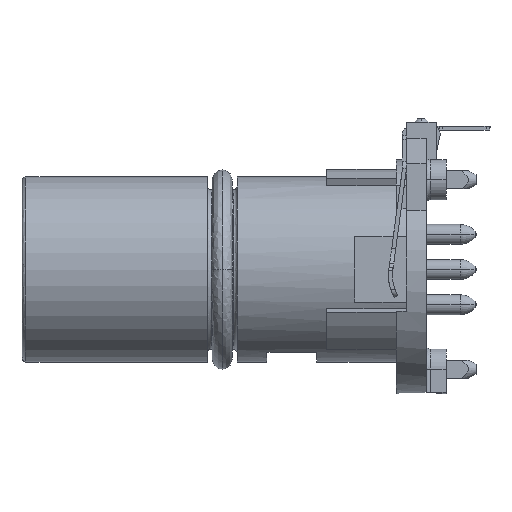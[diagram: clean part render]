
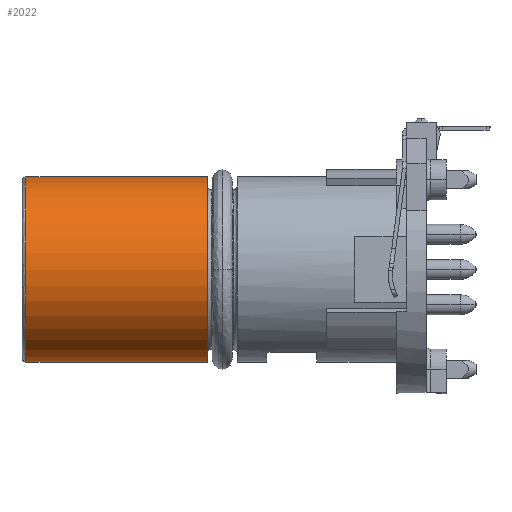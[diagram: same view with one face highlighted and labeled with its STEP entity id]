
A CAD part, left-side view. The second image highlights one B-rep face of the part: STEP entity #2022.
In plain terms, the highlighted cylindrical face has radius 4.65 mm (diameter 9.3 mm), a partial arc.
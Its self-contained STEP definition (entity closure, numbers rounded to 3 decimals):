
#908 = VERTEX_POINT ( 'NONE', #11681 ) ;
#1410 = AXIS2_PLACEMENT_3D ( 'NONE', #7618, #7435, #9556 ) ;
#1859 = VERTEX_POINT ( 'NONE', #2663 ) ;
#2022 = ADVANCED_FACE ( 'NONE', ( #3492 ), #3683, .T. ) ;
#2369 = AXIS2_PLACEMENT_3D ( 'NONE', #12511, #10246, #7457 ) ;
#2457 = LINE ( 'NONE', #10213, #11225 ) ;
#2465 = EDGE_LOOP ( 'NONE', ( #6149, #10605, #8403, #12686 ) ) ;
#2663 = CARTESIAN_POINT ( 'NONE',  ( 0., 12., 4.65 ) ) ;
#2767 = CIRCLE ( 'NONE', #2369, 4.65 ) ;
#3492 = FACE_OUTER_BOUND ( 'NONE', #2465, .T. ) ;
#3682 = VERTEX_POINT ( 'NONE', #9977 ) ;
#3683 = CYLINDRICAL_SURFACE ( 'NONE', #1410, 4.65 ) ;
#3792 = VERTEX_POINT ( 'NONE', #5195 ) ;
#5195 = CARTESIAN_POINT ( 'NONE',  ( 0., 21.1, -4.65 ) ) ;
#5411 = CIRCLE ( 'NONE', #11603, 4.65 ) ;
#6033 = CARTESIAN_POINT ( 'NONE',  ( 0., 12., 0. ) ) ;
#6149 = ORIENTED_EDGE ( 'NONE', *, *, #6357, .T. ) ;
#6357 = EDGE_CURVE ( 'NONE', #3682, #1859, #5411, .T. ) ;
#6395 = DIRECTION ( 'NONE',  ( 0., 1., 0. ) ) ;
#7435 = DIRECTION ( 'NONE',  ( 0., -1., 0. ) ) ;
#7457 = DIRECTION ( 'NONE',  ( 0., 0., -1. ) ) ;
#7618 = CARTESIAN_POINT ( 'NONE',  ( 0., 22.265, 0. ) ) ;
#7627 = CARTESIAN_POINT ( 'NONE',  ( 0., 22.265, 4.65 ) ) ;
#8403 = ORIENTED_EDGE ( 'NONE', *, *, #9582, .F. ) ;
#8791 = DIRECTION ( 'NONE',  ( 0., -1., 0. ) ) ;
#9052 = DIRECTION ( 'NONE',  ( 0., 0., -1. ) ) ;
#9176 = VECTOR ( 'NONE', #8791, 1000. ) ;
#9556 = DIRECTION ( 'NONE',  ( 0., 0., -1. ) ) ;
#9582 = EDGE_CURVE ( 'NONE', #3792, #908, #2767, .T. ) ;
#9977 = CARTESIAN_POINT ( 'NONE',  ( 0., 12., -4.65 ) ) ;
#10160 = EDGE_CURVE ( 'NONE', #908, #1859, #10740, .T. ) ;
#10213 = CARTESIAN_POINT ( 'NONE',  ( 0., 22.265, -4.65 ) ) ;
#10246 = DIRECTION ( 'NONE',  ( 0., 1., 0. ) ) ;
#10390 = EDGE_CURVE ( 'NONE', #3682, #3792, #2457, .T. ) ;
#10605 = ORIENTED_EDGE ( 'NONE', *, *, #10160, .F. ) ;
#10740 = LINE ( 'NONE', #7627, #9176 ) ;
#11225 = VECTOR ( 'NONE', #6395, 1000. ) ;
#11603 = AXIS2_PLACEMENT_3D ( 'NONE', #6033, #12103, #9052 ) ;
#11681 = CARTESIAN_POINT ( 'NONE',  ( 0., 21.1, 4.65 ) ) ;
#12103 = DIRECTION ( 'NONE',  ( 0., 1., 0. ) ) ;
#12511 = CARTESIAN_POINT ( 'NONE',  ( 0., 21.1, 0. ) ) ;
#12686 = ORIENTED_EDGE ( 'NONE', *, *, #10390, .F. ) ;
